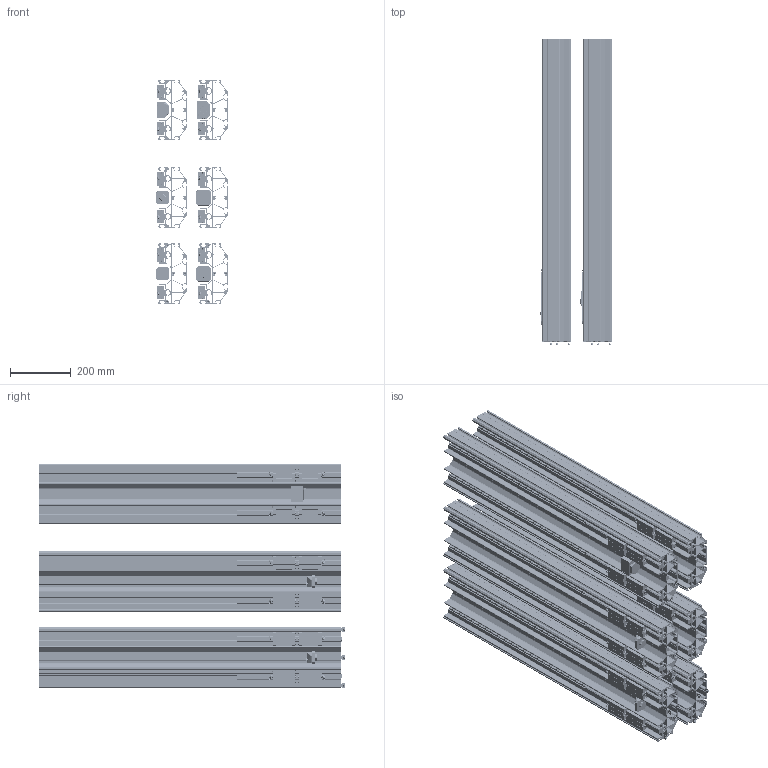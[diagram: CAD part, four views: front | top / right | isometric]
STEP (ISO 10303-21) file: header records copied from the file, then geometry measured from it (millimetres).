
FILE_DESCRIPTION(/* description */ (''),/* implementation_level */ '2;1');
FILE_NAME(/* name */ 'CNC-X-~1',/* time_stamp */ '2021-05-05T02:29:55+03:00',/* author */ (''),/* organization */ (''),/* preprocessor_version */ 'ST-DEVELOPER v15',/* originating_system */ '',/* authorisation */ '');
FILE_SCHEMA (('CONFIG_CONTROL_DESIGN'));
Products named in the file (2): Document; Block 02
Assembly tree (12 placements, depth 2):
  Document
    Block 02  x12
Bounding box: 237.96 x 1012.35 x 742.29 mm (x, y, z)
Volume: 20298537.8 mm3; surface area: 14558991.8 mm2
Topology: 212 solids, 1429 shells, 35152 faces, 100638 edges, 67104 vertices
Faces by surface type: bspline 23045, plane 12107
Entity records: 995184 total; most frequent: CARTESIAN_POINT 568838, ORIENTED_EDGE 154804, EDGE_CURVE 80122, VERTEX_POINT 54199, EDGE_LOOP 29395, ADVANCED_FACE 28024, FACE_OUTER_BOUND 28024, B_SPLINE_CURVE_WITH_KNOTS 25517
